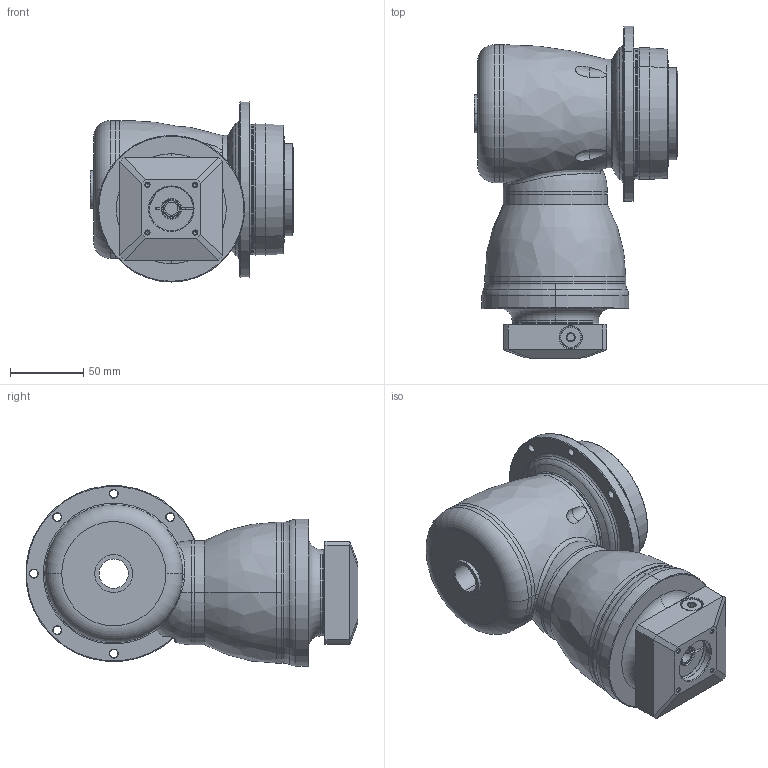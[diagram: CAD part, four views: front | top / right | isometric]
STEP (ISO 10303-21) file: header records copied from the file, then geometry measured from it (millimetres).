
FILE_DESCRIPTION((''),'2;1');
FILE_NAME('KH090_1ST_11-P0409200101_ASM','2016-06-07T',('d01943'),(''),'PRO/ENGINEER BY PARAMETRIC TECHNOLOGY CORPORATION, 2008410','PRO/ENGINEER BY PARAMETRIC TECHNOLOGY CORPORATION, 2008410','');
FILE_SCHEMA(('CONFIG_CONTROL_DESIGN'));
Length unit declared in the file: millimetre
Products named in the file (11): P1008300002_AF1; P1816300001_AF1; P1817300001_AF1; P1315300001_AF1; P1007300001; P1318300001; P0409200101; P0503200005; P0912300001; 21711410012; KH090_1ST_11-P0409200101_ASM
Assembly tree (10 placements, depth 2):
  KH090_1ST_11-P0409200101_ASM
    P1008300002_AF1
    P1816300001_AF1
    P1817300001_AF1
    P1315300001_AF1
    P1007300001
    P1318300001
    P0409200101
    P0503200005
    P0912300001
    21711410012
Bounding box: 138.8 x 226.27 x 122.77 mm (x, y, z)
Volume: 1421516.3 mm3; surface area: 209774.1 mm2
Topology: 11 solids, 11 shells, 526 faces, 1189 edges, 700 vertices
Faces by surface type: cylinder 187, cone 142, plane 93, torus 68, bspline 34, sphere 2
Entity records: 21198 total; most frequent: CARTESIAN_POINT 9280, DIRECTION 2652, ORIENTED_EDGE 2288, EDGE_CURVE 1144, AXIS2_PLACEMENT_3D 1131, VERTEX_POINT 693, CIRCLE 618, EDGE_LOOP 615
